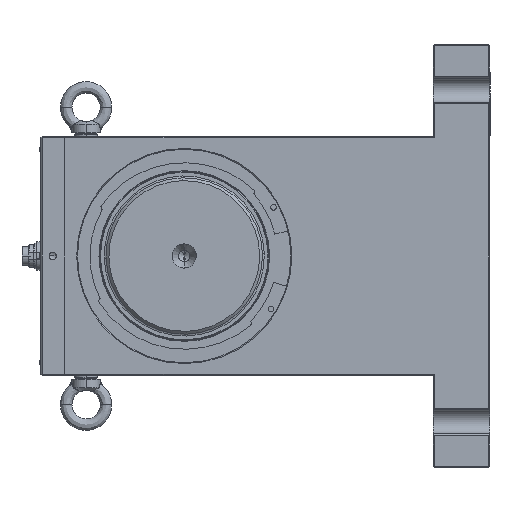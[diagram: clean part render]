
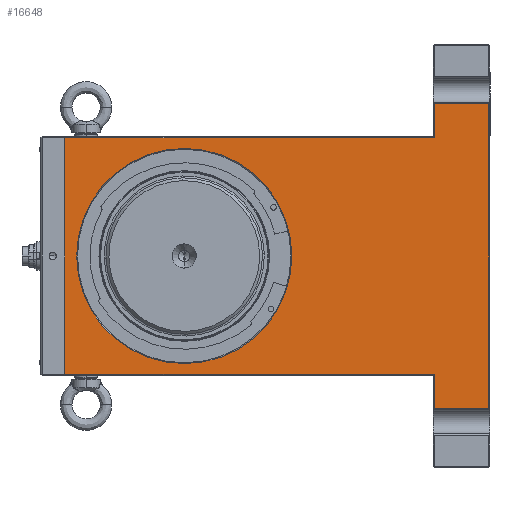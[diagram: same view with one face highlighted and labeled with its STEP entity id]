
A CAD part, left-side view. The second image highlights one B-rep face of the part: STEP entity #16648.
In plain terms, the highlighted planar face has unit normal (-1, 0, 0).
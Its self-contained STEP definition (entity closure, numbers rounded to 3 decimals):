
#947 = LINE ( 'NONE', #56010, #69048 ) ;
#1861 = CARTESIAN_POINT ( 'NONE',  ( -121., -176., 83. ) ) ;
#2353 = VECTOR ( 'NONE', #34438, 1000. ) ;
#8333 = CARTESIAN_POINT ( 'NONE',  ( -121., 84., 83. ) ) ;
#10108 = DIRECTION ( 'NONE',  ( 0., 0., -1. ) ) ;
#15952 = EDGE_CURVE ( 'NONE', #81577, #107286, #107974, .T. ) ;
#16648 = ADVANCED_FACE ( 'NONE', ( #146095, #111628 ), #60071, .F. ) ;
#19951 = DIRECTION ( 'NONE',  ( 1., 0., 0. ) ) ;
#21403 = CIRCLE ( 'NONE', #36031, 75.677 ) ;
#21580 = EDGE_CURVE ( 'NONE', #227298, #58064, #21403, .T. ) ;
#23810 = CARTESIAN_POINT ( 'NONE',  ( -121., -176., 83. ) ) ;
#24364 = AXIS2_PLACEMENT_3D ( 'NONE', #195713, #90156, #75209 ) ;
#28132 = CIRCLE ( 'NONE', #24364, 75.677 ) ;
#30304 = CARTESIAN_POINT ( 'NONE',  ( -121., -176., -83. ) ) ;
#30793 = CARTESIAN_POINT ( 'NONE',  ( -121., 0., 0. ) ) ;
#34438 = DIRECTION ( 'NONE',  ( 0., -1., 0. ) ) ;
#34927 = LINE ( 'NONE', #174996, #206927 ) ;
#35628 = CARTESIAN_POINT ( 'NONE',  ( -121., 84., 84. ) ) ;
#36031 = AXIS2_PLACEMENT_3D ( 'NONE', #30793, #205216, #10108 ) ;
#42378 = EDGE_CURVE ( 'NONE', #58064, #227298, #28132, .T. ) ;
#45948 = EDGE_CURVE ( 'NONE', #111213, #171714, #65891, .T. ) ;
#47105 = ORIENTED_EDGE ( 'NONE', *, *, #96018, .F. ) ;
#50221 = ORIENTED_EDGE ( 'NONE', *, *, #98321, .T. ) ;
#50854 = VERTEX_POINT ( 'NONE', #117413 ) ;
#54350 = CARTESIAN_POINT ( 'NONE',  ( -121., 0., 75.677 ) ) ;
#54831 = ORIENTED_EDGE ( 'NONE', *, *, #15952, .T. ) ;
#56010 = CARTESIAN_POINT ( 'NONE',  ( -121., -84., -83. ) ) ;
#56386 = EDGE_CURVE ( 'NONE', #107286, #111213, #191671, .T. ) ;
#57654 = EDGE_CURVE ( 'NONE', #83653, #81577, #947, .T. ) ;
#57810 = DIRECTION ( 'NONE',  ( 0., 0., -1. ) ) ;
#58064 = VERTEX_POINT ( 'NONE', #54350 ) ;
#58647 = EDGE_CURVE ( 'NONE', #175386, #95070, #182888, .T. ) ;
#58948 = VECTOR ( 'NONE', #161917, 1000. ) ;
#60071 = PLANE ( 'NONE',  #165614 ) ;
#65502 = CARTESIAN_POINT ( 'NONE',  ( -121., 84., -107. ) ) ;
#65891 = LINE ( 'NONE', #101409, #106041 ) ;
#69048 = VECTOR ( 'NONE', #193781, 1000. ) ;
#75209 = DIRECTION ( 'NONE',  ( 0., 0., -1. ) ) ;
#76244 = CARTESIAN_POINT ( 'NONE',  ( -121., 84., -83. ) ) ;
#81577 = VERTEX_POINT ( 'NONE', #30304 ) ;
#81965 = DIRECTION ( 'NONE',  ( 0., 0., 1. ) ) ;
#83653 = VERTEX_POINT ( 'NONE', #76244 ) ;
#85632 = ORIENTED_EDGE ( 'NONE', *, *, #21580, .T. ) ;
#90156 = DIRECTION ( 'NONE',  ( 1., 0., 0. ) ) ;
#90797 = CARTESIAN_POINT ( 'NONE',  ( -121., -176., 84. ) ) ;
#95070 = VERTEX_POINT ( 'NONE', #118608 ) ;
#95815 = ORIENTED_EDGE ( 'NONE', *, *, #42378, .T. ) ;
#96018 = EDGE_CURVE ( 'NONE', #83653, #95070, #104457, .T. ) ;
#98321 = EDGE_CURVE ( 'NONE', #50854, #175386, #124837, .T. ) ;
#101409 = CARTESIAN_POINT ( 'NONE',  ( -121., -214., 108. ) ) ;
#102646 = ORIENTED_EDGE ( 'NONE', *, *, #56386, .T. ) ;
#104457 = LINE ( 'NONE', #35628, #146474 ) ;
#106041 = VECTOR ( 'NONE', #81965, 1000. ) ;
#107286 = VERTEX_POINT ( 'NONE', #210524 ) ;
#107974 = LINE ( 'NONE', #90797, #58948 ) ;
#110173 = EDGE_LOOP ( 'NONE', ( #95815, #85632 ) ) ;
#111213 = VERTEX_POINT ( 'NONE', #187494 ) ;
#111628 = FACE_OUTER_BOUND ( 'NONE', #200337, .T. ) ;
#117413 = CARTESIAN_POINT ( 'NONE',  ( -121., -176., 107. ) ) ;
#118608 = CARTESIAN_POINT ( 'NONE',  ( -121., 84., 83. ) ) ;
#124837 = LINE ( 'NONE', #23810, #136123 ) ;
#127708 = DIRECTION ( 'NONE',  ( 0., 1., 0. ) ) ;
#132085 = ORIENTED_EDGE ( 'NONE', *, *, #57654, .T. ) ;
#136123 = VECTOR ( 'NONE', #163865, 1000. ) ;
#142337 = ORIENTED_EDGE ( 'NONE', *, *, #45948, .T. ) ;
#146095 = FACE_BOUND ( 'NONE', #110173, .T. ) ;
#146474 = VECTOR ( 'NONE', #190629, 1000. ) ;
#158437 = CARTESIAN_POINT ( 'NONE',  ( -121., -214., 107. ) ) ;
#160600 = VECTOR ( 'NONE', #127708, 1000. ) ;
#161917 = DIRECTION ( 'NONE',  ( 0., 0., -1. ) ) ;
#163865 = DIRECTION ( 'NONE',  ( 0., 0., -1. ) ) ;
#165614 = AXIS2_PLACEMENT_3D ( 'NONE', #215015, #19951, #57810 ) ;
#171714 = VERTEX_POINT ( 'NONE', #158437 ) ;
#172727 = DIRECTION ( 'NONE',  ( 0., 1., 0. ) ) ;
#174379 = ORIENTED_EDGE ( 'NONE', *, *, #209456, .T. ) ;
#174996 = CARTESIAN_POINT ( 'NONE',  ( -121., -175., 107. ) ) ;
#175386 = VERTEX_POINT ( 'NONE', #1861 ) ;
#182888 = LINE ( 'NONE', #8333, #160600 ) ;
#187494 = CARTESIAN_POINT ( 'NONE',  ( -121., -214., -107. ) ) ;
#187615 = ORIENTED_EDGE ( 'NONE', *, *, #58647, .T. ) ;
#190629 = DIRECTION ( 'NONE',  ( 0., 0., 1. ) ) ;
#191671 = LINE ( 'NONE', #65502, #2353 ) ;
#193781 = DIRECTION ( 'NONE',  ( 0., -1., 0. ) ) ;
#195713 = CARTESIAN_POINT ( 'NONE',  ( -121., 0., 0. ) ) ;
#200337 = EDGE_LOOP ( 'NONE', ( #50221, #187615, #47105, #132085, #54831, #102646, #142337, #174379 ) ) ;
#205216 = DIRECTION ( 'NONE',  ( 1., 0., 0. ) ) ;
#206927 = VECTOR ( 'NONE', #172727, 1000. ) ;
#209456 = EDGE_CURVE ( 'NONE', #171714, #50854, #34927, .T. ) ;
#210524 = CARTESIAN_POINT ( 'NONE',  ( -121., -176., -107. ) ) ;
#214072 = CARTESIAN_POINT ( 'NONE',  ( -121., 0., -75.677 ) ) ;
#215015 = CARTESIAN_POINT ( 'NONE',  ( -121., 84., 84. ) ) ;
#227298 = VERTEX_POINT ( 'NONE', #214072 ) ;
